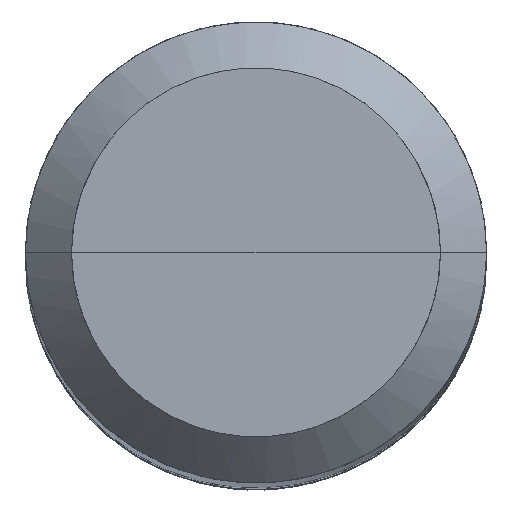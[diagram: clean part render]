
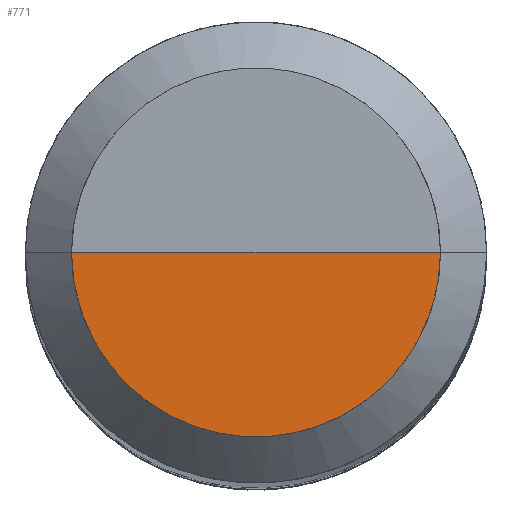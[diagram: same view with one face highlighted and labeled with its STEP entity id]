
A CAD part, top view. The second image highlights one B-rep face of the part: STEP entity #771.
In plain terms, the highlighted free-form (B-spline) face has degree [1, 2] with [2, 5] control points.
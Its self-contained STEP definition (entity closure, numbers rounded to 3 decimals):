
#331=CARTESIAN_POINT('',(6.4,0.0,97.201));
#335=CARTESIAN_POINT('',(-6.4,0.0,97.201));
#336=CARTESIAN_POINT('',(0.0,0.0,97.201));
#352=CARTESIAN_POINT('',(-6.4,-6.4,97.201));
#353=CARTESIAN_POINT('',(0.0,-6.4,97.201));
#354=CARTESIAN_POINT('',(6.4,-6.4,97.201));
#756=(
BOUNDED_SURFACE()
B_SPLINE_SURFACE(1,2,(
(#335,#352,#353,#354,#331),
(#336,#336,#336,#336,#336)
), .UNSPECIFIED.,.F.,.F.,.F.)
B_SPLINE_SURFACE_WITH_KNOTS((2,2),(3,2,3),(
0.0,1.0),(
0.0,0.5,1.0), .UNSPECIFIED.)
GEOMETRIC_REPRESENTATION_ITEM()
RATIONAL_B_SPLINE_SURFACE(((1.0,0.707,1.0,0.707,1.0),
(1.0,0.707,1.0,0.707,1.0)
))
REPRESENTATION_ITEM('')
SURFACE()
);
#757=(
BOUNDED_CURVE()
B_SPLINE_CURVE(2,(#331,#354,#353,#352,#335),.UNSPECIFIED.,.F.,.F.)
B_SPLINE_CURVE_WITH_KNOTS((3,2,3),
(0.0,0.5,1.0),.UNSPECIFIED.)
CURVE()
GEOMETRIC_REPRESENTATION_ITEM()
RATIONAL_B_SPLINE_CURVE((1.0,0.707,1.0,0.707,1.0))
REPRESENTATION_ITEM('')
);
#758=(
BOUNDED_CURVE()
B_SPLINE_CURVE(1,(#335,#336),.UNSPECIFIED.,.F.,.F.)
B_SPLINE_CURVE_WITH_KNOTS((2,2),
(0.0,1.0),.UNSPECIFIED.)
CURVE()
GEOMETRIC_REPRESENTATION_ITEM()
RATIONAL_B_SPLINE_CURVE((1.0,1.0))
REPRESENTATION_ITEM('')
);
#759=(
BOUNDED_CURVE()
B_SPLINE_CURVE(1,(#336,#331),.UNSPECIFIED.,.F.,.F.)
B_SPLINE_CURVE_WITH_KNOTS((2,2),
(0.0,1.0),.UNSPECIFIED.)
CURVE()
GEOMETRIC_REPRESENTATION_ITEM()
RATIONAL_B_SPLINE_CURVE((1.0,1.0))
REPRESENTATION_ITEM('')
);
#760=VERTEX_POINT('',#331);
#761=VERTEX_POINT('',#335);
#762=VERTEX_POINT('',#336);
#763=EDGE_CURVE('',#760,#761,#757,.T.);
#764=EDGE_CURVE('',#761,#762,#758,.T.);
#765=EDGE_CURVE('',#762,#760,#759,.T.);
#766=ORIENTED_EDGE('',*,*,#763,.T.);
#767=ORIENTED_EDGE('',*,*,#764,.T.);
#768=ORIENTED_EDGE('',*,*,#765,.T.);
#769=EDGE_LOOP('',(#766,#767,#768));
#770=FACE_OUTER_BOUND('',#769,.T.);
#771=ADVANCED_FACE('',(#770),#756,.T.);
